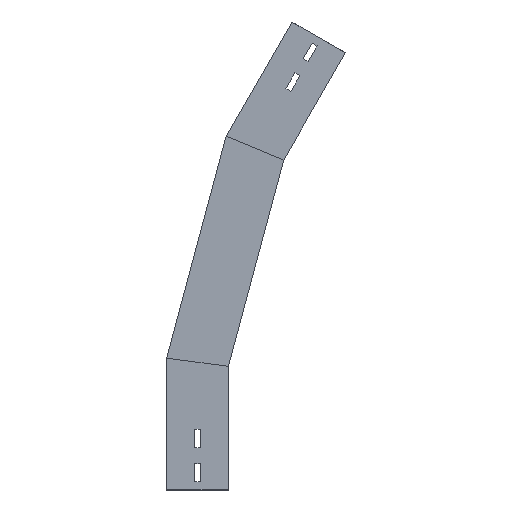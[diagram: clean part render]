
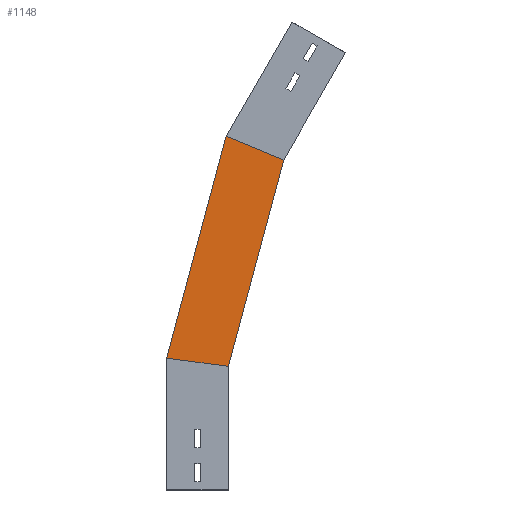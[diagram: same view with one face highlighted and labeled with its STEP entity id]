
A CAD part, left-side view. The second image highlights one B-rep face of the part: STEP entity #1148.
In plain terms, the highlighted planar face has unit normal (-1, 0, 0) as drawn and (1, 0, 0) by its records, which use the part's own axes.
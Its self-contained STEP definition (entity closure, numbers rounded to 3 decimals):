
#5 = EDGE_CURVE ( 'NONE', #1359, #1437, #532, .T. ) ;
#21 = ORIENTED_EDGE ( 'NONE', *, *, #903, .F. ) ;
#175 = VECTOR ( 'NONE', #1470, 1000. ) ;
#196 = LINE ( 'NONE', #1018, #175 ) ;
#264 = CARTESIAN_POINT ( 'NONE',  ( 0., 0., 150. ) ) ;
#265 = EDGE_LOOP ( 'NONE', ( #434, #1364, #21, #936 ) ) ;
#283 = FACE_OUTER_BOUND ( 'NONE', #265, .T. ) ;
#298 = DIRECTION ( 'NONE',  ( 0., 0., -1. ) ) ;
#351 = CARTESIAN_POINT ( 'NONE',  ( 0., -67.034, 400.175 ) ) ;
#394 = CARTESIAN_POINT ( 'NONE',  ( 0., -19.411, 147.444 ) ) ;
#434 = ORIENTED_EDGE ( 'NONE', *, *, #934, .T. ) ;
#514 = VECTOR ( 'NONE', #1500, 1000. ) ;
#532 = LINE ( 'NONE', #394, #1219 ) ;
#638 = CARTESIAN_POINT ( 'NONE',  ( 0., 2.837, 139.412 ) ) ;
#656 = LINE ( 'NONE', #1049, #514 ) ;
#666 = VERTEX_POINT ( 'NONE', #351 ) ;
#750 = DIRECTION ( 'NONE',  ( 1., 0., 0. ) ) ;
#814 = VECTOR ( 'NONE', #1010, 1000. ) ;
#826 = LINE ( 'NONE', #1285, #814 ) ;
#843 = EDGE_CURVE ( 'NONE', #1484, #666, #656, .T. ) ;
#903 = EDGE_CURVE ( 'NONE', #1437, #666, #196, .T. ) ;
#934 = EDGE_CURVE ( 'NONE', #1359, #1484, #826, .T. ) ;
#936 = ORIENTED_EDGE ( 'NONE', *, *, #5, .F. ) ;
#1010 = DIRECTION ( 'NONE',  ( 0., -0.259, 0.966 ) ) ;
#1018 = CARTESIAN_POINT ( 'NONE',  ( 0., 2.837, 139.412 ) ) ;
#1042 = CARTESIAN_POINT ( 'NONE',  ( 0., 75., 159.874 ) ) ;
#1049 = CARTESIAN_POINT ( 'NONE',  ( 0., -99.589, 386.69 ) ) ;
#1148 = ADVANCED_FACE ( 'NONE', ( #283 ), #1341, .T. ) ;
#1219 = VECTOR ( 'NONE', #1331, 1000. ) ;
#1285 = CARTESIAN_POINT ( 'NONE',  ( 0., 75.281, 158.824 ) ) ;
#1295 = AXIS2_PLACEMENT_3D ( 'NONE', #638, #750, #298 ) ;
#1331 = DIRECTION ( 'NONE',  ( 0., -0.991, -0.131 ) ) ;
#1341 = PLANE ( 'NONE',  #1295 ) ;
#1359 = VERTEX_POINT ( 'NONE', #1042 ) ;
#1364 = ORIENTED_EDGE ( 'NONE', *, *, #843, .T. ) ;
#1429 = CARTESIAN_POINT ( 'NONE',  ( 0., 2.855, 429.124 ) ) ;
#1437 = VERTEX_POINT ( 'NONE', #264 ) ;
#1470 = DIRECTION ( 'NONE',  ( 0., -0.259, 0.966 ) ) ;
#1484 = VERTEX_POINT ( 'NONE', #1429 ) ;
#1500 = DIRECTION ( 'NONE',  ( 0., -0.924, -0.383 ) ) ;
